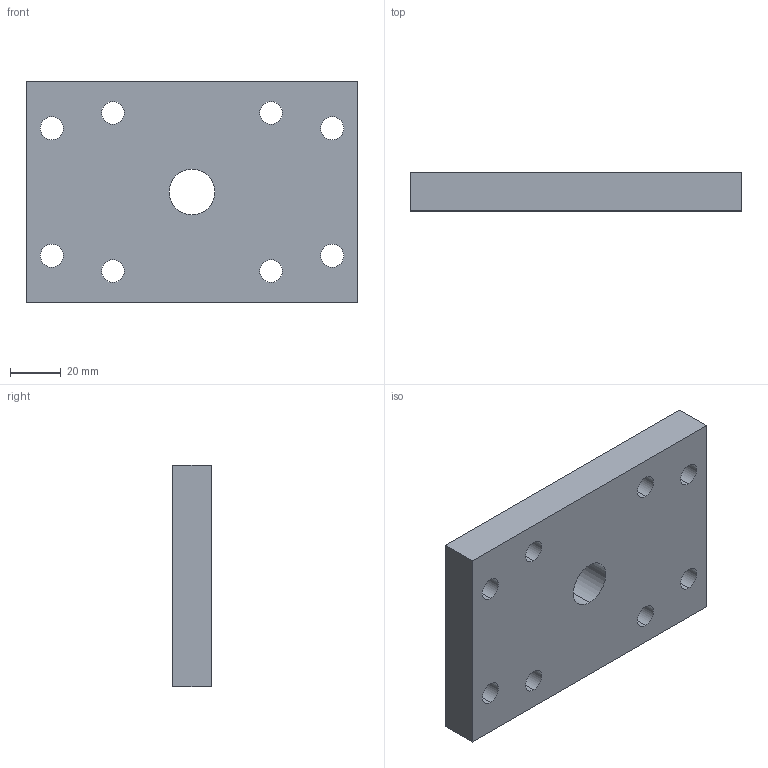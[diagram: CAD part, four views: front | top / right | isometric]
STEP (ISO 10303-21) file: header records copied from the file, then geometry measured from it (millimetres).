
FILE_DESCRIPTION (( 'STEP AP214' ), '1' );
FILE_NAME ('FLU-063.STEP', '2013-10-02T11:49:42', ( '' ), ( '' ), 'SwSTEP 2.0', 'SolidWorks 2009', '' );
FILE_SCHEMA (( 'AUTOMOTIVE_DESIGN' ));
Length unit declared in the file: millimetre
Products named in the file (1): FLU-063
Bounding box: 130 x 15 x 87 mm (x, y, z)
Volume: 154308.3 mm3; surface area: 32492.8 mm2
Topology: 1 solids, 1 shells, 36 faces, 90 edges, 60 vertices
Faces by surface type: cylinder 26, plane 10
Entity records: 1176 total; most frequent: DIRECTION 216, CARTESIAN_POINT 187, ORIENTED_EDGE 180, EDGE_CURVE 90, AXIS2_PLACEMENT_3D 89, VERTEX_POINT 60, EDGE_LOOP 58, CIRCLE 52
